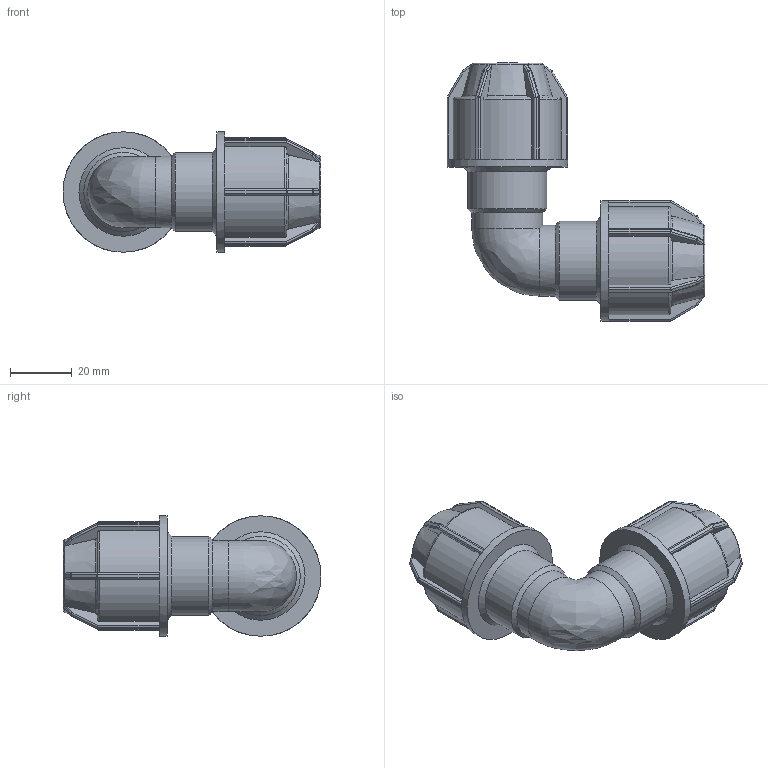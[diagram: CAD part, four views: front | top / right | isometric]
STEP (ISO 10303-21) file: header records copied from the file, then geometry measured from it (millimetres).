
FILE_DESCRIPTION(/* description */ ('PLASSON L.14 90° ELBOW (SILVER) 16-16'),/* implementation_level */ '2;1');
FILE_NAME(/* name */ 'C:\Dropbox\KIMPROJECTS-Inventor\99-16-3568-Processing\Silver+MF ISRAEL\140500\140500016.ipt.stp',/* time_stamp */ '2018-04-09T13:03:44+03:00',/* author */ ('KIM'),/* organization */ (''),/* preprocessor_version */ 'ST-DEVELOPER v15.6',/* originating_system */ 'Autodesk Inventor 2015',/* authorisation */ '');
FILE_SCHEMA (('AUTOMOTIVE_DESIGN { 1 0 10303 214 3 1 1 }'));
Length unit declared in the file: millimetre
Products named in the file (1): 140500016
Bounding box: 83.5 x 83.5 x 39 mm (x, y, z)
Volume: 61003 mm3; surface area: 21732.6 mm2
Topology: 1 solids, 1 shells, 410 faces, 987 edges, 564 vertices
Faces by surface type: plane 194, cylinder 120, sphere 48, torus 29, cone 18, bspline 1
Full cylindrical faces by diameter (mm): 14.4 x2, 16 x4, 23.04 x2, 25.6 x2, 39 x2
Entity records: 11808 total; most frequent: CARTESIAN_POINT 3020, DIRECTION 1850, ORIENTED_EDGE 1810, EDGE_CURVE 905, AXIS2_PLACEMENT_3D 745, VERTEX_POINT 532, EDGE_LOOP 435, FACE_OUTER_BOUND 404
